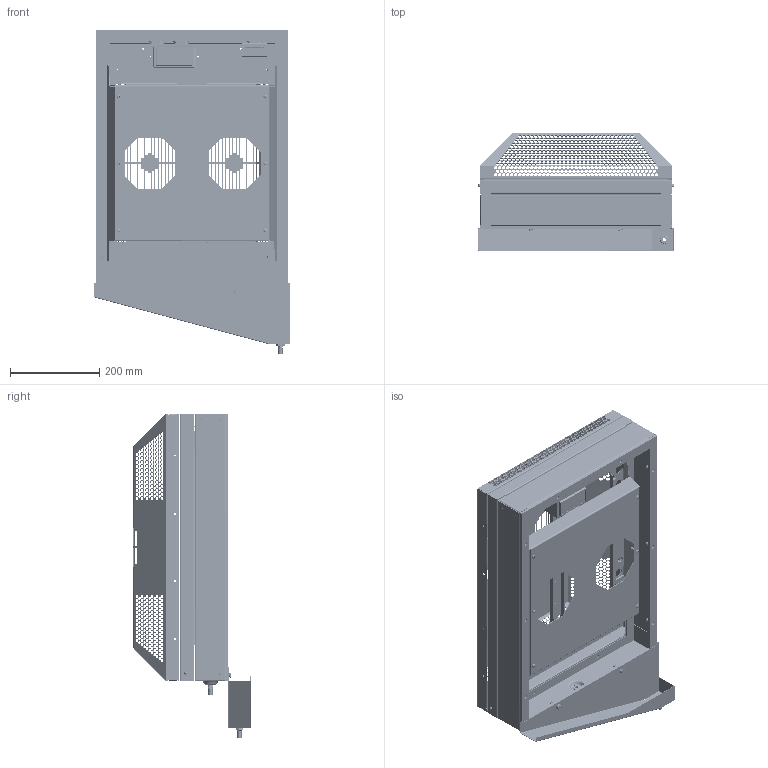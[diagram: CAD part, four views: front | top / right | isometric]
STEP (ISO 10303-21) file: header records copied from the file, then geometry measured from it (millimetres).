
FILE_DESCRIPTION((''),'2;1');
FILE_NAME('ASM0001_ASM','2017-07-11T',('briang'),(''),'CREO PARAMETRIC BY PTC INC, 2014500','CREO PARAMETRIC BY PTC INC, 2014500','');
FILE_SCHEMA(('CONFIG_CONTROL_DESIGN'));
Products named in the file (47): TG6805-CTRL-BRKT_1_1_1_1; CAREL_IR33PLUS_SEIFERT_1_1_1_1; 41290_TUTTO_1_1_1_1; 1757048_TUTTO_1_1_1_1; 1757051_TUTTO_1_1_1_1; 1757019_TUTTO_1_1_1_1; CAREL_IR33_PLUS_SEIFERT_ASM_1_1_ASM; TG6505-CNCTR-BRKT_1_1_1_1; OVAL_GROMMET_1_1_1_1; 072106080019_1_1_1_1; TG6505-CNCTR-BRKT_ASM_1_ASM_1_1_ASM; TG6505-DUCT-EDGES_1_1_1_1; TG6505-DUCT-EDGES2_1_1_1_1; TG6505-DUCT-EDGES3_1_1_1_1; POPNUT_M6_HEX_OPEN_A2_1_1_1_1; TG6505-INS-MOUNT-HOR_1_1_1_1; TG6505-INS-MOUNT-VER_1_1_1_1; TG6505-DUCT_ASM_1_ASM_1_1_ASM_1_ASM; WATERTRAY_DRAIN_FITTING_1_1_1_1; SPS_WIRECVR_BKTV2_1_1_1_1; POPNUT_M4_HEX_CLOSED_A2_1_1_1_1; SPS_WIRECVR_BKTV2_MNF_ASM_1_A_1_ASM; SPS-WIRECVR_1_1_1_1; OVAL_GROMMET_1_1_1; SCREW_DIN_7985-M4X10-A2_1_1_1_1; TG6405-1PC-HOUSING_1_1_1_1; POPNUT_M6_HEX_CLOSED_A2_1_1_1_1; TG6505-WATER-DEFLECTOR_1_1_1_1; BLIND_RIVET_4X7_A2_A2_RVTD_1__1; TG6405-1PC-HOUSING-MNF_ASM_1__1_ASM; TG6405-1PC-INTERNAL-INS-SIDE1_2; TG6405-1PC-HOUSING_ASM_1_ASM__1_ASM; TG6405-MOUNTINGTEMPLATE_1_1_1_1; TG6405XXX-FU-COVER_1_1_1_1; TG6405-FU_ASM_1_ASM_1_1_ASM_1_ASM; FC-OUTS-PS40_ASM_1_1_ASM_1_ASM; ASM0001_ASM_1_ASM; TG6405_COND_DRAIN_1; NYLON_WASHER_17_04X12_6X0_79_1; WATERTRAY_DRAIN_FITTING_1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
Assembly tree (83 placements, depth 8):
  ASM0001_ASM
    TG6405_CONDENSATE_DRAIN_ASSY_AS_ASM
      ASM0001_ASM_1_ASM
        FC-OUTS-PS40_ASM_1_1_ASM_1_ASM
          TG6405-FU_ASM_1_ASM_1_1_ASM_1_ASM
            TG6805-CTRL-BRKT_1_1_1_1
            CAREL_IR33_PLUS_SEIFERT_ASM_1_1_ASM
              CAREL_IR33PLUS_SEIFERT_1_1_1_1
              41290_TUTTO_1_1_1_1
              1757048_TUTTO_1_1_1_1
              1757051_TUTTO_1_1_1_1
              1757019_TUTTO_1_1_1_1  x2
            TG6505-CNCTR-BRKT_ASM_1_ASM_1_1_ASM
              TG6505-CNCTR-BRKT_1_1_1_1
              OVAL_GROMMET_1_1_1_1  x3
              072106080019_1_1_1_1
            TG6505-DUCT_ASM_1_ASM_1_1_ASM_1_ASM
              TG6505-DUCT-EDGES_1_1_1_1  x2
              TG6505-DUCT-EDGES2_1_1_1_1
              TG6505-DUCT-EDGES3_1_1_1_1
              POPNUT_M6_HEX_OPEN_A2_1_1_1_1  x10
              TG6505-INS-MOUNT-HOR_1_1_1_1  x2
              TG6505-INS-MOUNT-VER_1_1_1_1  x2
            WATERTRAY_DRAIN_FITTING_1_1_1_1
            SPS_WIRECVR_BKTV2_MNF_ASM_1_A_1_ASM  x2
              SPS_WIRECVR_BKTV2_1_1_1_1
              POPNUT_M4_HEX_CLOSED_A2_1_1_1_1
            SPS-WIRECVR_1_1_1_1
            OVAL_GROMMET_1_1_1
            SCREW_DIN_7985-M4X10-A2_1_1_1_1  x6
            TG6405-1PC-HOUSING_ASM_1_ASM__1_ASM
              TG6405-1PC-HOUSING-MNF_ASM_1__1_ASM
                TG6405-1PC-HOUSING_1_1_1_1
                POPNUT_M6_HEX_CLOSED_A2_1_1_1_1  x10
                TG6505-WATER-DEFLECTOR_1_1_1_1
                BLIND_RIVET_4X7_A2_A2_RVTD_1__1  x2
              TG6405-1PC-INTERNAL-INS-SIDE1_2  x2
            TG6405-MOUNTINGTEMPLATE_1_1_1_1
            TG6405XXX-FU-COVER_1_1_1_1
      TG6405_CONDENSATE_DRAIN_ASM_1_ASM
        TG6405_COND_DRAIN_1
        NYLON_WASHER_17_04X12_6X0_79_1
        WATERTRAY_DRAIN_FITTING_1
        LOCK_NUT_12X1_RAL9005_1
      WASHER_FLAT_A6_4_S_STEEL_1  x2
      TOOTHED_WASHER_DIN6797_M5_1  x2
      BOLT_M6X12_DIN933_1  x2
Bounding box: 440.11 x 262.5 x 728.71 mm (x, y, z)
Volume: 2144175.3 mm3; surface area: 2672793 mm2
Topology: 75 solids, 97 shells, 9443 faces, 26234 edges, 16784 vertices
Faces by surface type: cylinder 4715, plane 3845, bspline 408, cone 280, torus 144, sphere 46, extrusion 5
Entity records: 276440 total; most frequent: CARTESIAN_POINT 63782, DIRECTION 44866, ORIENTED_EDGE 43454, EDGE_CURVE 21729, AXIS2_PLACEMENT_3D 16707, VERTEX_POINT 14014, VECTOR 11452, LINE 11447
